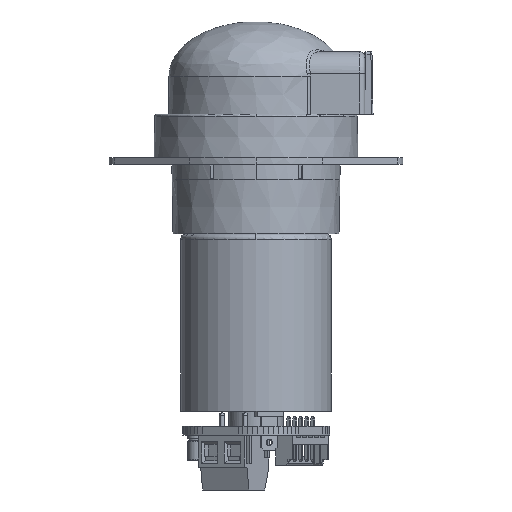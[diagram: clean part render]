
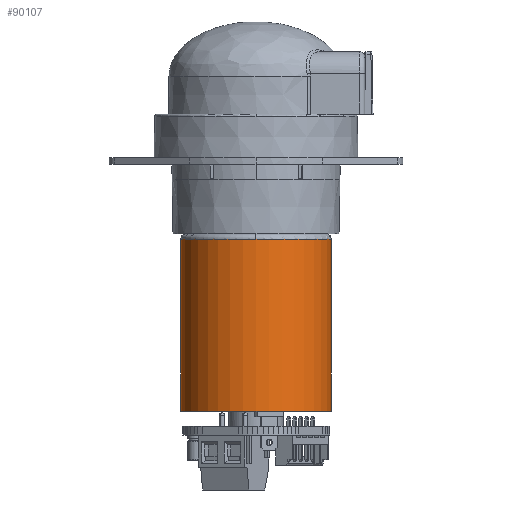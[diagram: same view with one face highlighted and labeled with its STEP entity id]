
A CAD part, left-side view. The second image highlights one B-rep face of the part: STEP entity #90107.
In plain terms, the highlighted cylindrical face has radius 13.85 mm (diameter 27.7 mm), a partial arc.
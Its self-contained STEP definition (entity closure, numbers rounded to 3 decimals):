
#2466 = DIRECTION ( 'NONE',  ( 0., -1., 0. ) ) ;
#4897 = CARTESIAN_POINT ( 'NONE',  ( 0., -13.85, 6. ) ) ;
#5805 = CARTESIAN_POINT ( 'NONE',  ( 0., 13.85, -15. ) ) ;
#9528 = DIRECTION ( 'NONE',  ( 0., 0., 1. ) ) ;
#9628 = AXIS2_PLACEMENT_3D ( 'NONE', #54940, #19080, #75237 ) ;
#12699 = VERTEX_POINT ( 'NONE', #5805 ) ;
#13273 = VERTEX_POINT ( 'NONE', #77187 ) ;
#14361 = CARTESIAN_POINT ( 'NONE',  ( 0., 13.85, -46.6 ) ) ;
#16848 = VERTEX_POINT ( 'NONE', #91866 ) ;
#17245 = VERTEX_POINT ( 'NONE', #14361 ) ;
#19080 = DIRECTION ( 'NONE',  ( 0., 0., -1. ) ) ;
#19663 = CIRCLE ( 'NONE', #82914, 13.85 ) ;
#25633 = DIRECTION ( 'NONE',  ( 0., -1., 0. ) ) ;
#26671 = VECTOR ( 'NONE', #76745, 1000. ) ;
#27957 = DIRECTION ( 'NONE',  ( 0., 0., 1. ) ) ;
#29527 = AXIS2_PLACEMENT_3D ( 'NONE', #85070, #27957, #41660 ) ;
#29542 = EDGE_CURVE ( 'NONE', #13273, #12699, #68304, .T. ) ;
#30395 = LINE ( 'NONE', #4897, #71694 ) ;
#33685 = DIRECTION ( 'NONE',  ( 0., 0., 1. ) ) ;
#35421 = EDGE_LOOP ( 'NONE', ( #60877, #81676, #75362, #83691, #47053 ) ) ;
#41660 = DIRECTION ( 'NONE',  ( 0., -1., 0. ) ) ;
#42580 = CYLINDRICAL_SURFACE ( 'NONE', #29527, 13.85 ) ;
#43052 = AXIS2_PLACEMENT_3D ( 'NONE', #53957, #61518, #25633 ) ;
#44603 = CIRCLE ( 'NONE', #43052, 13.85 ) ;
#47053 = ORIENTED_EDGE ( 'NONE', *, *, #29542, .T. ) ;
#49336 = CARTESIAN_POINT ( 'NONE',  ( 0., 13.85, 6. ) ) ;
#50709 = EDGE_CURVE ( 'NONE', #16848, #92562, #30395, .T. ) ;
#53957 = CARTESIAN_POINT ( 'NONE',  ( 0., 0., -15. ) ) ;
#54940 = CARTESIAN_POINT ( 'NONE',  ( 0., 0., -15. ) ) ;
#57655 = FACE_OUTER_BOUND ( 'NONE', #35421, .T. ) ;
#60877 = ORIENTED_EDGE ( 'NONE', *, *, #82851, .F. ) ;
#61518 = DIRECTION ( 'NONE',  ( 0., 0., -1. ) ) ;
#65952 = EDGE_CURVE ( 'NONE', #92562, #13273, #44603, .T. ) ;
#68156 = CARTESIAN_POINT ( 'NONE',  ( 0., -13.85, -15. ) ) ;
#68304 = CIRCLE ( 'NONE', #9628, 13.85 ) ;
#71694 = VECTOR ( 'NONE', #33685, 1000. ) ;
#74632 = CARTESIAN_POINT ( 'NONE',  ( 0., 0., -46.6 ) ) ;
#75237 = DIRECTION ( 'NONE',  ( 0., -1., 0. ) ) ;
#75362 = ORIENTED_EDGE ( 'NONE', *, *, #50709, .T. ) ;
#76745 = DIRECTION ( 'NONE',  ( 0., 0., 1. ) ) ;
#77187 = CARTESIAN_POINT ( 'NONE',  ( -13.85, 0., -15. ) ) ;
#81676 = ORIENTED_EDGE ( 'NONE', *, *, #88369, .T. ) ;
#82851 = EDGE_CURVE ( 'NONE', #17245, #12699, #91801, .T. ) ;
#82914 = AXIS2_PLACEMENT_3D ( 'NONE', #74632, #9528, #2466 ) ;
#83691 = ORIENTED_EDGE ( 'NONE', *, *, #65952, .T. ) ;
#85070 = CARTESIAN_POINT ( 'NONE',  ( 0., 0., 6. ) ) ;
#88369 = EDGE_CURVE ( 'NONE', #17245, #16848, #19663, .T. ) ;
#90107 = ADVANCED_FACE ( 'NONE', ( #57655 ), #42580, .T. ) ;
#91801 = LINE ( 'NONE', #49336, #26671 ) ;
#91866 = CARTESIAN_POINT ( 'NONE',  ( 0., -13.85, -46.6 ) ) ;
#92562 = VERTEX_POINT ( 'NONE', #68156 ) ;
